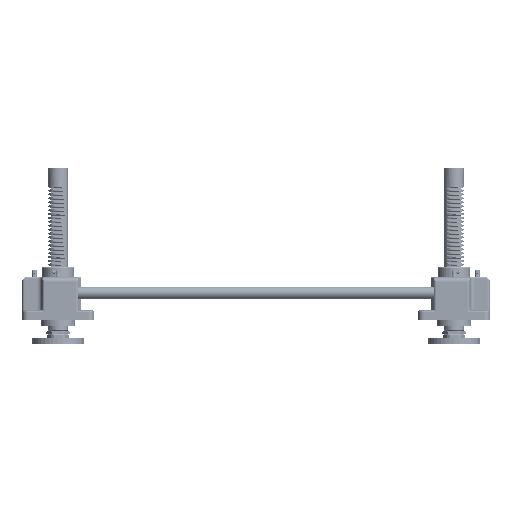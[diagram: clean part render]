
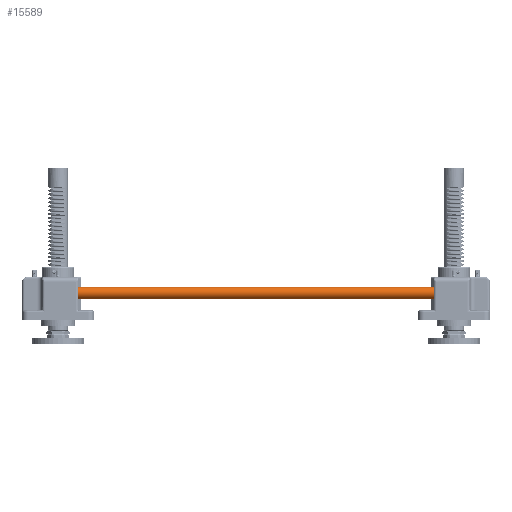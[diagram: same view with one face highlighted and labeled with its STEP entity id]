
A CAD part, left-side view. The second image highlights one B-rep face of the part: STEP entity #15589.
In plain terms, the highlighted cylindrical face has radius 12.5 mm (diameter 25 mm), a full revolution.
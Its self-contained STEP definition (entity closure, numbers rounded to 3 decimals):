
#15589=ADVANCED_FACE('',(#36375,#36376),#36377,.T.);
#36375=FACE_OUTER_BOUND('',#60308,.T.);
#36376=FACE_OUTER_BOUND('',#60309,.T.);
#36377=CYLINDRICAL_SURFACE('',#60310,12.5);
#60308=EDGE_LOOP('',(#141940));
#60309=EDGE_LOOP('',(#141941));
#60310=AXIS2_PLACEMENT_3D('',#141942,#141943,#141944);
#141940=ORIENTED_EDGE('',*,*,#168045,.T.);
#141941=ORIENTED_EDGE('',*,*,#168042,.T.);
#141942=CARTESIAN_POINT('',(0.0,0.0,850.0));
#141943=DIRECTION('',(0.0,0.0,-1.0));
#141944=DIRECTION('',(-1.0,0.0,0.0));
#168042=EDGE_CURVE('',#211368,#211368,#211369,.F.);
#168045=EDGE_CURVE('',#211374,#211374,#211375,.T.);
#211368=VERTEX_POINT('',#286770);
#211369=CIRCLE('',#286771,12.5);
#211374=VERTEX_POINT('',#286776);
#211375=CIRCLE('',#286777,12.5);
#286770=CARTESIAN_POINT('',(12.5,0.0,849.0));
#286771=AXIS2_PLACEMENT_3D('',#317860,#317861,#317862);
#286776=CARTESIAN_POINT('',(12.5,0.0,1.0));
#286777=AXIS2_PLACEMENT_3D('',#317869,#317870,#317871);
#317860=CARTESIAN_POINT('',(0.0,0.0,849.0));
#317861=DIRECTION('',(0.0,0.0,1.0));
#317862=DIRECTION('',(1.0,0.0,0.0));
#317869=CARTESIAN_POINT('',(0.0,0.0,1.0));
#317870=DIRECTION('',(0.0,0.0,1.0));
#317871=DIRECTION('',(1.0,0.0,0.0));
